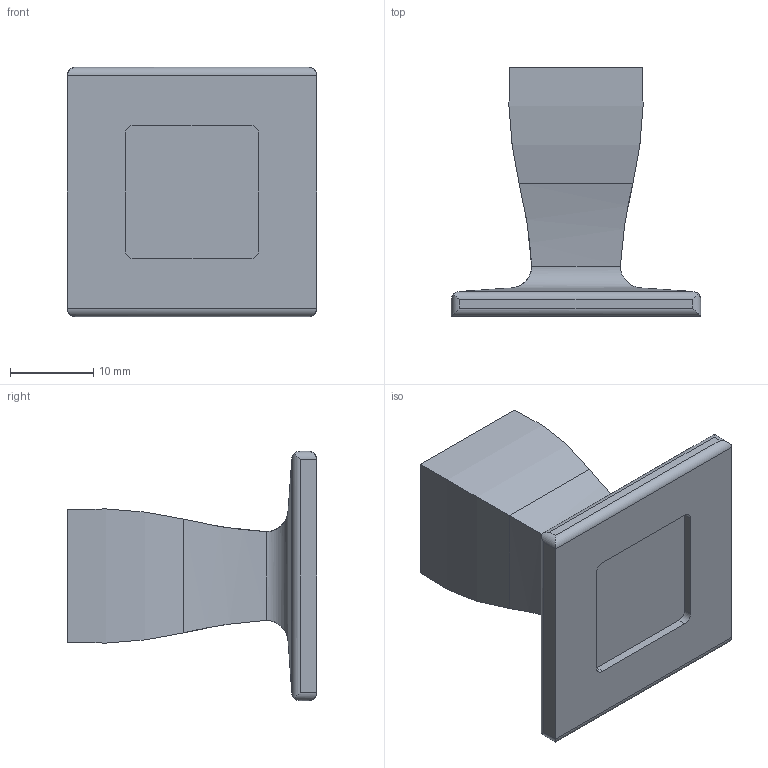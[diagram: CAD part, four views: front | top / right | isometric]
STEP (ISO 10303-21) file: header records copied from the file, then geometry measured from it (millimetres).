
FILE_DESCRIPTION( ( '' ), '1' );
FILE_NAME( '//10.120.51.241/design/Data Transfer/Nikhil/115264.stp', '2013-10-24T09:27:29', ( '' ), ( '' ), ' ', ' ', ' ' );
FILE_SCHEMA( ( 'automotive_design' ) );
Length unit declared in the file: millimetre
Products named in the file (1): 1
Bounding box: 30 x 30 x 30 mm (x, y, z)
Volume: 7682 mm3; surface area: 3805.3 mm2
Topology: 1 solids, 1 shells, 44 faces, 100 edges, 60 vertices
Faces by surface type: cylinder 28, plane 16
Entity records: 2400 total; most frequent: DIRECTION 230, STYLED_ITEM 205, PRESENTATION_STYLE_ASSIGNMENT 205, CARTESIAN_POINT 205, COLOUR_RGB 205, ORIENTED_EDGE 200, EDGE_CURVE 100, CURVE_STYLE 100
